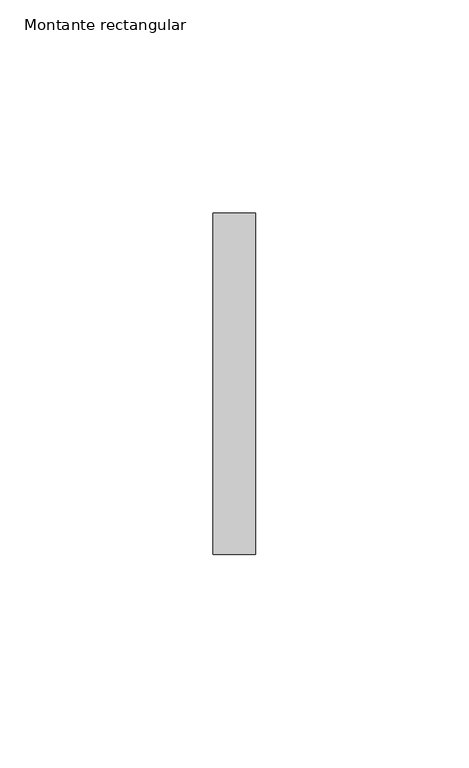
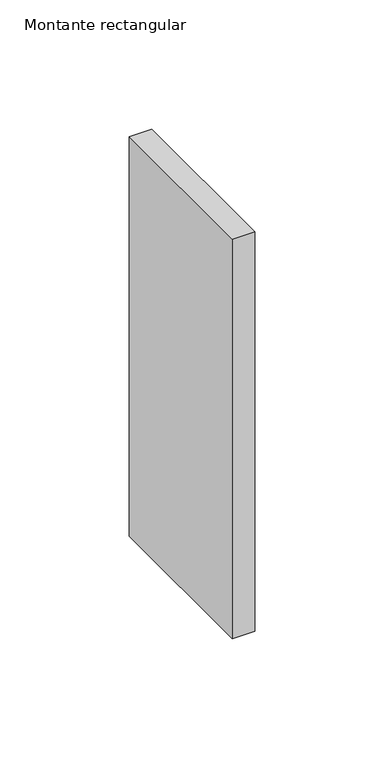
"""IFC4 building model written with IfcOpenShell, lengths in millimetres: member geometry, Montante rectangular : Junta de paves."""

from ifc_helpers import new_model, si_unit, frame, origin, place, context, project, spatial, polyline, outline, extrude, source, transform, mapped, element, save


def montante_rectangular_ea949198(model_context):
    return source(origin(), model_context, "Body", "SweptSolid", [
        extrude(outline(polyline([(5.0, 40.0), (5.0, -40.0), (-5.0, -40.0), (-5.0, 40.0), (5.0, 40.0)])), frame((0.0, 0.0, -188.8888889), z_axis=(0.0, 0.0, 1.0), x_axis=(1.0, 0.0, 0.0)), (0.0, 0.0, 1.0), 188.8888889),
    ])


if __name__ == "__main__":
    model = new_model("IFC4")
    model_context = context("Model", 3, world=origin())
    ifc_project = project(units=[si_unit("LENGTHUNIT", "METRE", prefix="MILLI")], contexts=[model_context])
    site = spatial("IfcSite", under=ifc_project)
    building = spatial("IfcBuilding", under=site)
    placement = place(None, origin())
    montante_rectangular_shape = montante_rectangular_ea949198(model_context)
    element("IfcMember", 1, ObjectType="Montante rectangular : Junta de paves", at=placement, inside=building, context=model_context, shape_type="MappedRepresentation", body=[
        mapped(montante_rectangular_shape, transform((0.0, 0.0, 0.0), x_axis=(1.0, 0.0, 0.0), y_axis=(0.0, 1.0, 0.0), z_axis=(0.0, 0.0, 1.0))),
    ])
    save(model, "model.ifc")
